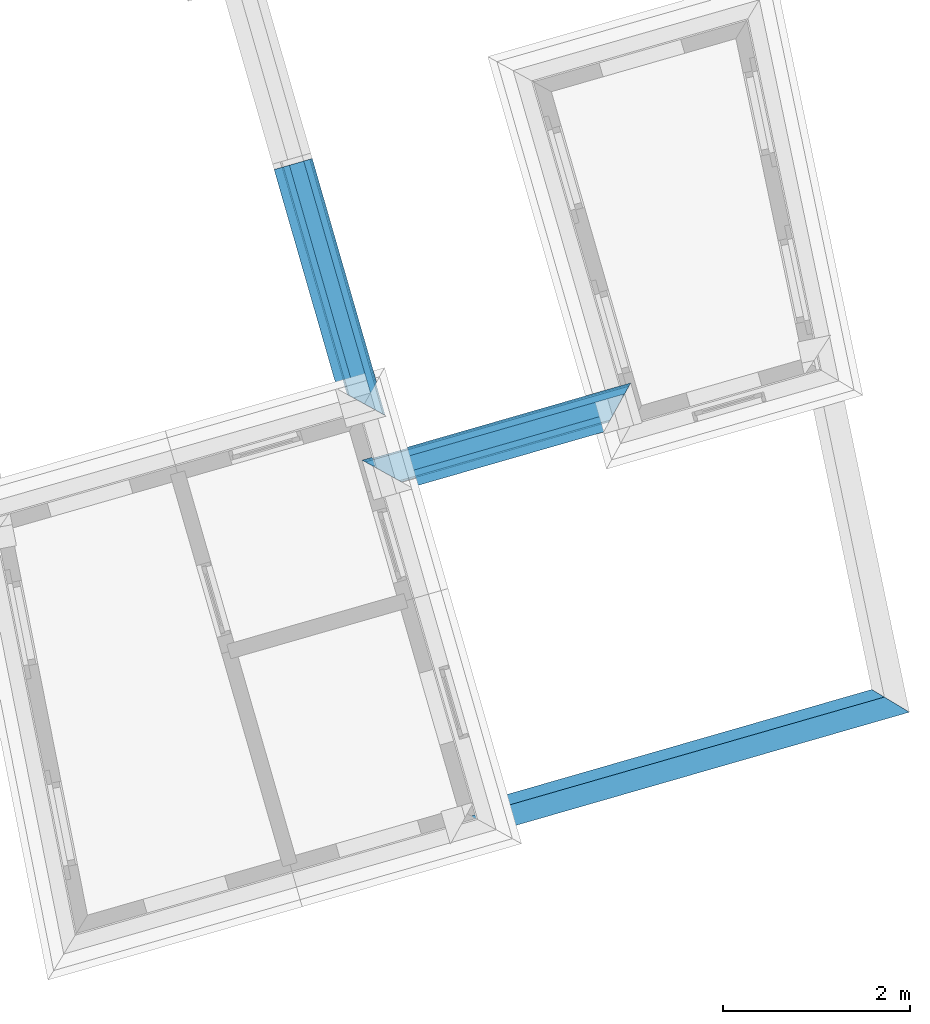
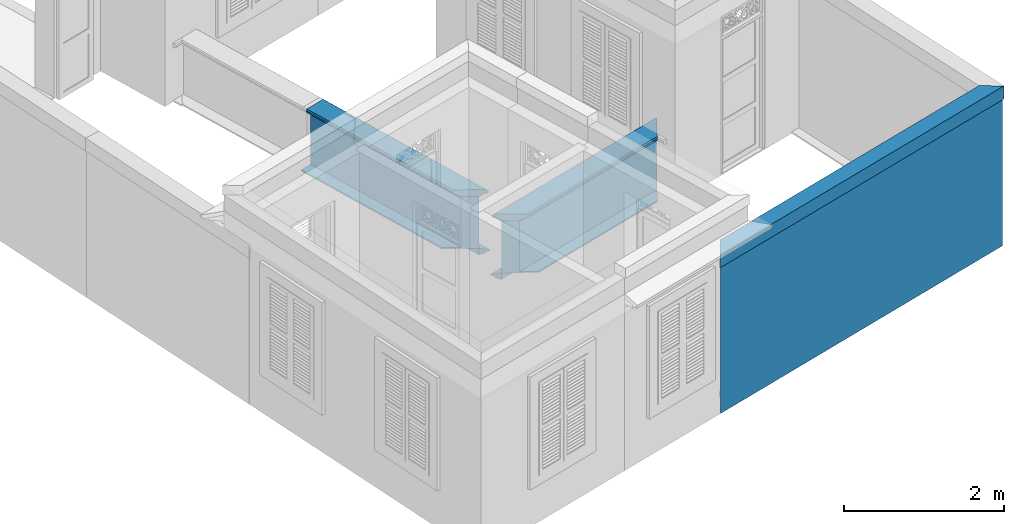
# One storey, part 10 of 22: 8 walls.
"""IFC4 building model written with IfcOpenShell, lengths in metres."""

from ifc_helpers import new_model, si_unit, frame, origin_with_axes, place, context, subcontext, project, spatial, polyline, outline, extrude, clip, halfspace, material_profile, profile_set, profile_usage, type_object, element, save


model = new_model("IFC4")

# Units and contexts
model_context = context("Model", 3, world=origin_with_axes())
body_context = subcontext(model_context, "Body", "Model", "MODEL_VIEW")
ifc_project = project(units=[si_unit("PLANEANGLEUNIT", "RADIAN"), si_unit("MASSUNIT", "GRAM", prefix="KILO"), si_unit("FORCEUNIT", "NEWTON", prefix="KILO"), si_unit("LENGTHUNIT", "METRE"), si_unit("AREAUNIT", "SQUARE_METRE"), si_unit("VOLUMEUNIT", "CUBIC_METRE")], contexts=[model_context, model_context])

# Site, building, storey
site_placement = place(None, origin_with_axes())
site = spatial("IfcSite", under=ifc_project, at=site_placement, Name="Site plot-9", CompositionType="ELEMENT")
building_placement = place(None, origin_with_axes())
building = spatial("IfcBuilding", under=site, at=building_placement, Name="Building plot-9", CompositionType="ELEMENT")
storey_placement = place(None, frame((0.0, 0.0, 2.85), z_axis=(0.0, 0.0, 1.0), x_axis=(1.0, 0.0, 0.0)))
storey = spatial("IfcBuildingStorey", under=building, at=storey_placement, Name="plot-9 1", CompositionType="ELEMENT", Elevation=2.85)

# Walls
ifc_material_profile_1 = material_profile(None, outline(polyline([(0.25, 0.0), (0.25, 2.245), (0.05, 2.245), (0.05, 0.02), (-0.08, 0.02), (-0.08, 0.0), (0.25, 0.0)])))
ifc_profile_set_1 = profile_set([ifc_material_profile_1])
ifc_profile_usage_1 = profile_usage(ifc_profile_set_1)
wall_type_1 = type_object("IfcWallType", Name="parapet street_0", PredefinedType="PARAPET", material=ifc_profile_set_1)
wall_1_placement = place(storey_placement, frame((-10.7072531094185, -4.04688838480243, 0.0), z_axis=(-0.961007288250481, -0.276523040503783, 0.0), x_axis=(0.276523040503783, -0.961007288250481, 0.0)))
element("IfcWall", 1, at=wall_1_placement, inside=storey, type_object=wall_type_1, material=ifc_profile_usage_1, Name="parapet street_0", context=body_context, shape_type="Clipping", body=[
    clip(clip(extrude(outline(polyline([(0.25, 0.0), (0.25, 2.245), (0.05, 2.245), (0.05, 0.02), (-0.08, 0.02), (-0.08, 0.0), (0.25, 0.0)])), origin_with_axes(), (0.0, 0.0, 1.0), 6.60581495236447), halfspace(frame((0.0, 0.0, 5.60581495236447), z_axis=(0.707106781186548, 0.0, -0.707106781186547), x_axis=(0.0, 1.0, 0.0)), True)), halfspace(frame((0.0, 0.0, 1.0), z_axis=(-0.680340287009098, 0.0, -0.732896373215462), x_axis=(0.0, 1.0, 0.0)), False)),
])
ifc_material_profile_2 = material_profile(None, outline(polyline([(0.265, 2.245), (0.265, 2.445), (0.035, 2.445), (0.035, 2.245), (0.265, 2.245)])))
ifc_profile_set_2 = profile_set([ifc_material_profile_2])
ifc_profile_usage_2 = profile_usage(ifc_profile_set_2)
wall_type_2 = type_object("IfcWallType", Name="parapet street_1", PredefinedType="PARAPET", material=ifc_profile_set_2)
wall_2_placement = place(storey_placement, frame((-10.7072531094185, -4.04688838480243, 0.0), z_axis=(-0.961007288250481, -0.276523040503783, 0.0), x_axis=(0.276523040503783, -0.961007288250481, 0.0)))
element("IfcWall", 2, at=wall_2_placement, inside=storey, type_object=wall_type_2, material=ifc_profile_usage_2, Name="parapet street_1", context=body_context, shape_type="Clipping", body=[
    clip(clip(extrude(outline(polyline([(0.265, 2.245), (0.265, 2.445), (0.035, 2.445), (0.035, 2.245), (0.265, 2.245)])), origin_with_axes(), (0.0, 0.0, 1.0), 6.60581495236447), halfspace(frame((0.0, 0.0, 5.60581495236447), z_axis=(0.707106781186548, 0.0, -0.707106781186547), x_axis=(0.0, 1.0, 0.0)), True)), halfspace(frame((0.0, 0.0, 1.0), z_axis=(-0.680340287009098, 0.0, -0.732896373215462), x_axis=(0.0, 1.0, 0.0)), False)),
])
ifc_material_profile_3 = material_profile(None, outline(polyline([(0.25, 0.0), (0.25, 0.795), (0.09, 0.795), (0.09, 0.02), (-0.08, 0.02), (-0.08, 0.0), (0.25, 0.0)])))
ifc_profile_set_3 = profile_set([ifc_material_profile_3])
ifc_profile_usage_3 = profile_usage(ifc_profile_set_3)
wall_type_3 = type_object("IfcWallType", Name="parapet internal_0", PredefinedType="PARAPET", material=ifc_profile_set_3)
wall_3_placement = place(storey_placement, frame((-18.3623118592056, 2.28441874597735, 0.0), z_axis=(0.276523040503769, -0.961007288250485, 0.0), x_axis=(0.961007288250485, 0.276523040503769, 0.0)))
element("IfcWall", 3, at=wall_3_placement, inside=storey, type_object=wall_type_3, material=ifc_profile_usage_3, Name="parapet internal_0", context=body_context, shape_type="Clipping", body=[
    clip(clip(extrude(outline(polyline([(0.25, 0.0), (0.25, 0.795), (0.09, 0.795), (0.09, 0.02), (-0.08, 0.02), (-0.08, 0.0), (0.25, 0.0)])), origin_with_axes(), (0.0, 0.0, 1.0), 4.52488919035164), halfspace(frame((0.0, 0.0, 3.52488919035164), z_axis=(0.707106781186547, 0.0, -0.707106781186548), x_axis=(0.0, 1.0, 0.0)), True)), halfspace(frame((0.0, 0.0, 1.0), z_axis=(1.60812264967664e-16, 0.0, -1.0), x_axis=(0.0, 1.0, 0.0)), False)),
])
ifc_material_profile_4 = material_profile(None, outline(polyline([(0.265, 0.795), (0.268, 0.807), (0.274, 0.816), (0.283, 0.822), (0.295, 0.825), (0.295, 0.84), (0.305, 0.84), (0.317, 0.842), (0.326, 0.849), (0.333, 0.858), (0.335, 0.87), (0.333, 0.882), (0.326, 0.891), (0.317, 0.898), (0.305, 0.9), (0.035, 0.9), (0.023, 0.898), (0.014, 0.891), (0.007, 0.882), (0.005, 0.87), (0.007, 0.858), (0.014, 0.849), (0.023, 0.842), (0.035, 0.84), (0.045, 0.84), (0.045, 0.825), (0.057, 0.822), (0.066, 0.816), (0.072, 0.807), (0.075, 0.795), (0.265, 0.795)])))
ifc_profile_set_4 = profile_set([ifc_material_profile_4])
ifc_profile_usage_4 = profile_usage(ifc_profile_set_4)
wall_type_4 = type_object("IfcWallType", Name="parapet internal_1", PredefinedType="PARAPET", material=ifc_profile_set_4)
wall_4_placement = place(storey_placement, frame((-18.3623118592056, 2.28441874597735, 0.0), z_axis=(0.276523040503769, -0.961007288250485, 0.0), x_axis=(0.961007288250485, 0.276523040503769, 0.0)))
element("IfcWall", 4, at=wall_4_placement, inside=storey, type_object=wall_type_4, material=ifc_profile_usage_4, Name="parapet internal_1", context=body_context, shape_type="Clipping", body=[
    clip(clip(extrude(outline(polyline([(0.265, 0.795), (0.268, 0.807), (0.274, 0.816), (0.283, 0.822), (0.295, 0.825), (0.295, 0.84), (0.305, 0.84), (0.317, 0.842), (0.326, 0.849), (0.333, 0.858), (0.335, 0.87), (0.333, 0.882), (0.326, 0.891), (0.317, 0.898), (0.305, 0.9), (0.035, 0.9), (0.023, 0.898), (0.014, 0.891), (0.007, 0.882), (0.005, 0.87), (0.007, 0.858), (0.014, 0.849), (0.023, 0.842), (0.035, 0.84), (0.045, 0.84), (0.045, 0.825), (0.057, 0.822), (0.066, 0.816), (0.072, 0.807), (0.075, 0.795), (0.265, 0.795)])), origin_with_axes(), (0.0, 0.0, 1.0), 4.52488919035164), halfspace(frame((0.0, 0.0, 3.52488919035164), z_axis=(0.707106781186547, 0.0, -0.707106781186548), x_axis=(0.0, 1.0, 0.0)), True)), halfspace(frame((0.0, 0.0, 1.0), z_axis=(1.60812264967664e-16, 0.0, -1.0), x_axis=(0.0, 1.0, 0.0)), False)),
])
ifc_material_profile_5 = material_profile(None, outline(polyline([(0.25, -0.1), (0.265, -0.1), (0.265, -0.085), (0.278, -0.084), (0.289, -0.081), (0.301, -0.074), (0.309, -0.065), (0.315, -0.055), (0.324, -0.044), (0.334, -0.038), (0.345, -0.035), (0.345, -0.015), (0.25, 0.0), (0.25, -0.1)])))
ifc_profile_set_5 = profile_set([ifc_material_profile_5])
ifc_profile_usage_5 = profile_usage(ifc_profile_set_5)
wall_type_5 = type_object("IfcWallType", Name="parapet internal_2", PredefinedType="PARAPET", material=ifc_profile_set_5)
wall_5_placement = place(storey_placement, frame((-18.3623118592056, 2.28441874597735, 0.0), z_axis=(0.276523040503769, -0.961007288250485, 0.0), x_axis=(0.961007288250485, 0.276523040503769, 0.0)))
element("IfcWall", 5, at=wall_5_placement, inside=storey, type_object=wall_type_5, material=ifc_profile_usage_5, Name="parapet internal_2", context=body_context, shape_type="Clipping", body=[
    clip(clip(extrude(outline(polyline([(0.25, -0.1), (0.265, -0.1), (0.265, -0.085), (0.278, -0.084), (0.289, -0.081), (0.301, -0.074), (0.309, -0.065), (0.315, -0.055), (0.324, -0.044), (0.334, -0.038), (0.345, -0.035), (0.345, -0.015), (0.25, 0.0), (0.25, -0.1)])), origin_with_axes(), (0.0, 0.0, 1.0), 4.52488919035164), halfspace(frame((0.0, 0.0, 3.52488919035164), z_axis=(0.707106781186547, 0.0, -0.707106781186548), x_axis=(0.0, 1.0, 0.0)), True)), halfspace(frame((0.0, 0.0, 1.0), z_axis=(1.60812264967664e-16, 0.0, -1.0), x_axis=(0.0, 1.0, 0.0)), False)),
])
ifc_material_profile_6 = material_profile(None, outline(polyline([(0.25, 0.0), (0.25, 0.795), (0.09, 0.795), (0.09, 0.02), (-0.08, 0.02), (-0.08, 0.0), (0.25, 0.0)])))
ifc_profile_set_6 = profile_set([ifc_material_profile_6])
ifc_profile_usage_6 = profile_usage(ifc_profile_set_6)
wall_type_6 = type_object("IfcWallType", Name="parapet internal_0", PredefinedType="PARAPET", material=ifc_profile_set_6)
wall_6_placement = place(storey_placement, frame((-17.7542685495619, -2.32400032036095, 0.0), z_axis=(0.961007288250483, 0.276523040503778, 0.0), x_axis=(-0.276523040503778, 0.961007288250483, 0.0)))
element("IfcWall", 6, at=wall_6_placement, inside=storey, type_object=wall_type_6, material=ifc_profile_usage_6, Name="parapet internal_0", context=body_context, shape_type="Clipping", body=[
    clip(clip(extrude(outline(polyline([(0.25, 0.0), (0.25, 0.795), (0.09, 0.795), (0.09, 0.02), (-0.08, 0.02), (-0.08, 0.0), (0.25, 0.0)])), origin_with_axes(), (0.0, 0.0, 1.0), 4.30339041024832), halfspace(frame((0.0, 0.0, 3.30339041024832), z_axis=(0.707106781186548, 0.0, -0.707106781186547), x_axis=(0.0, 1.0, 0.0)), True)), halfspace(frame((0.0, 0.0, 1.0), z_axis=(-0.707106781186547, 0.0, -0.707106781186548), x_axis=(0.0, 1.0, 0.0)), False)),
])
ifc_material_profile_7 = material_profile(None, outline(polyline([(0.265, 0.795), (0.268, 0.807), (0.274, 0.816), (0.283, 0.822), (0.295, 0.825), (0.295, 0.84), (0.305, 0.84), (0.317, 0.842), (0.326, 0.849), (0.333, 0.858), (0.335, 0.87), (0.333, 0.882), (0.326, 0.891), (0.317, 0.898), (0.305, 0.9), (0.035, 0.9), (0.023, 0.898), (0.014, 0.891), (0.007, 0.882), (0.005, 0.87), (0.007, 0.858), (0.014, 0.849), (0.023, 0.842), (0.035, 0.84), (0.045, 0.84), (0.045, 0.825), (0.057, 0.822), (0.066, 0.816), (0.072, 0.807), (0.075, 0.795), (0.265, 0.795)])))
ifc_profile_set_7 = profile_set([ifc_material_profile_7])
ifc_profile_usage_7 = profile_usage(ifc_profile_set_7)
wall_type_7 = type_object("IfcWallType", Name="parapet internal_1", PredefinedType="PARAPET", material=ifc_profile_set_7)
wall_7_placement = place(storey_placement, frame((-17.7542685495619, -2.32400032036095, 0.0), z_axis=(0.961007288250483, 0.276523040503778, 0.0), x_axis=(-0.276523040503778, 0.961007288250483, 0.0)))
element("IfcWall", 7, at=wall_7_placement, inside=storey, type_object=wall_type_7, material=ifc_profile_usage_7, Name="parapet internal_1", context=body_context, shape_type="Clipping", body=[
    clip(clip(extrude(outline(polyline([(0.265, 0.795), (0.268, 0.807), (0.274, 0.816), (0.283, 0.822), (0.295, 0.825), (0.295, 0.84), (0.305, 0.84), (0.317, 0.842), (0.326, 0.849), (0.333, 0.858), (0.335, 0.87), (0.333, 0.882), (0.326, 0.891), (0.317, 0.898), (0.305, 0.9), (0.035, 0.9), (0.023, 0.898), (0.014, 0.891), (0.007, 0.882), (0.005, 0.87), (0.007, 0.858), (0.014, 0.849), (0.023, 0.842), (0.035, 0.84), (0.045, 0.84), (0.045, 0.825), (0.057, 0.822), (0.066, 0.816), (0.072, 0.807), (0.075, 0.795), (0.265, 0.795)])), origin_with_axes(), (0.0, 0.0, 1.0), 4.30339041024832), halfspace(frame((0.0, 0.0, 3.30339041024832), z_axis=(0.707106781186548, 0.0, -0.707106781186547), x_axis=(0.0, 1.0, 0.0)), True)), halfspace(frame((0.0, 0.0, 1.0), z_axis=(-0.707106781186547, 0.0, -0.707106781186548), x_axis=(0.0, 1.0, 0.0)), False)),
])
ifc_material_profile_8 = material_profile(None, outline(polyline([(0.25, -0.1), (0.265, -0.1), (0.265, -0.085), (0.278, -0.084), (0.289, -0.081), (0.301, -0.074), (0.309, -0.065), (0.315, -0.055), (0.324, -0.044), (0.334, -0.038), (0.345, -0.035), (0.345, -0.015), (0.25, 0.0), (0.25, -0.1)])))
ifc_profile_set_8 = profile_set([ifc_material_profile_8])
ifc_profile_usage_8 = profile_usage(ifc_profile_set_8)
wall_type_8 = type_object("IfcWallType", Name="parapet internal_2", PredefinedType="PARAPET", material=ifc_profile_set_8)
wall_8_placement = place(storey_placement, frame((-17.7542685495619, -2.32400032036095, 0.0), z_axis=(0.961007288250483, 0.276523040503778, 0.0), x_axis=(-0.276523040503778, 0.961007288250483, 0.0)))
element("IfcWall", 8, at=wall_8_placement, inside=storey, type_object=wall_type_8, material=ifc_profile_usage_8, Name="parapet internal_2", context=body_context, shape_type="Clipping", body=[
    clip(clip(extrude(outline(polyline([(0.25, -0.1), (0.265, -0.1), (0.265, -0.085), (0.278, -0.084), (0.289, -0.081), (0.301, -0.074), (0.309, -0.065), (0.315, -0.055), (0.324, -0.044), (0.334, -0.038), (0.345, -0.035), (0.345, -0.015), (0.25, 0.0), (0.25, -0.1)])), origin_with_axes(), (0.0, 0.0, 1.0), 4.30339041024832), halfspace(frame((0.0, 0.0, 3.30339041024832), z_axis=(0.707106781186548, 0.0, -0.707106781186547), x_axis=(0.0, 1.0, 0.0)), True)), halfspace(frame((0.0, 0.0, 1.0), z_axis=(-0.707106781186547, 0.0, -0.707106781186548), x_axis=(0.0, 1.0, 0.0)), False)),
])

save(model, "model.ifc")
